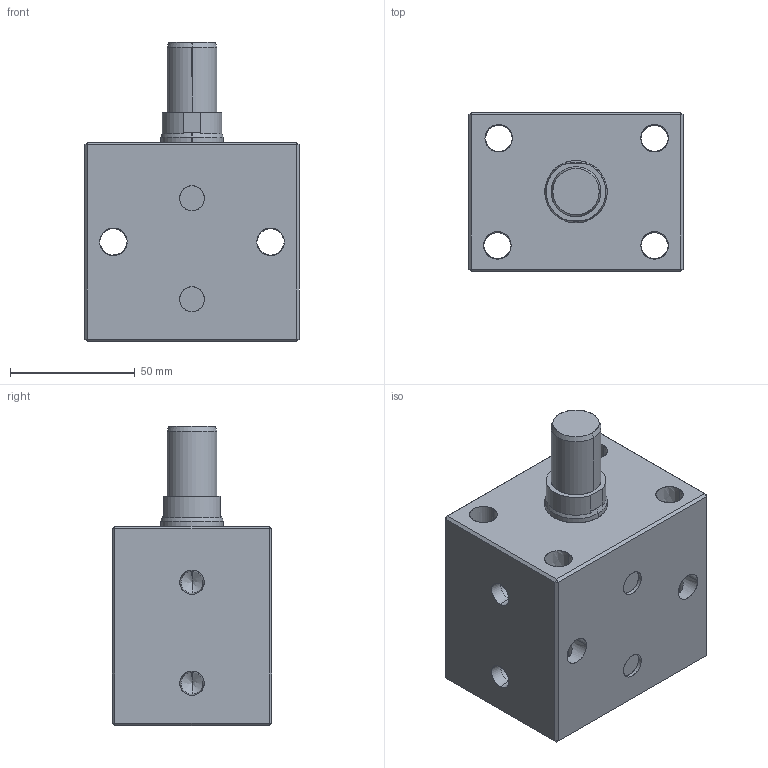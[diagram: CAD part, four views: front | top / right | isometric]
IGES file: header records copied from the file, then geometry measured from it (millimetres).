
Start section: SolidWorks IGES file using analytic representation for surfaces
Global section: file name: E:\ALL-SSVT-BLOCK\40-BORE-IGS-MODEL\BC04-40-25-M.IGS; native system: SolidWorks 2019; preprocessor: SolidWorks 2019; author: SSVT; date: 210825.145025; units: millimetre
Bounding box: 86 x 64 x 120 mm (x, y, z)
Surface area: 58927 mm2 (no closed solid volume)
Topology: 0 solids, 0 shells, 88 faces, 1684 edges, 1680 vertices
Faces by surface type: revolution 52, bspline 36
